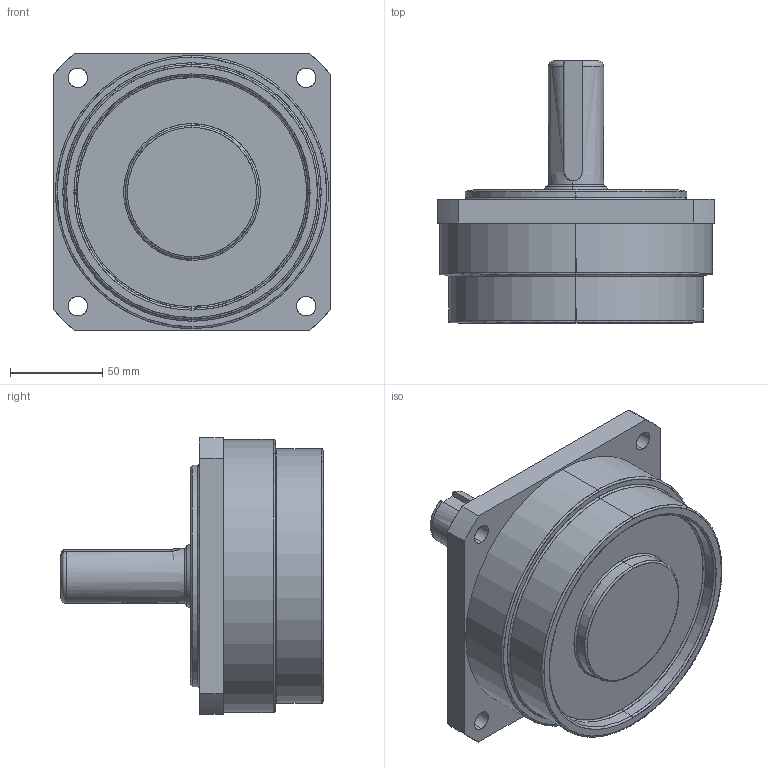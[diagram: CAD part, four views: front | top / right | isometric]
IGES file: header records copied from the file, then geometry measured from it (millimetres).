
Start section: SolidWorks IGES file using analytic representation for surfaces
Global section: file name: T:\共有\電子カタログ\20160329_機種追加\3D\FRT-Wｼﾘｰｽﾞ.IGS; native system: SolidWorks 2016; preprocessor: SolidWorks 2016; author: flgijutsu02; date: 160405.180035; units: millimetre
Bounding box: 150 x 142 x 150 mm (x, y, z)
Surface area: 99031.1 mm2 (no closed solid volume)
Topology: 0 solids, 0 shells, 78 faces, 1563 edges, 1563 vertices
Faces by surface type: revolution 42, bspline 36
